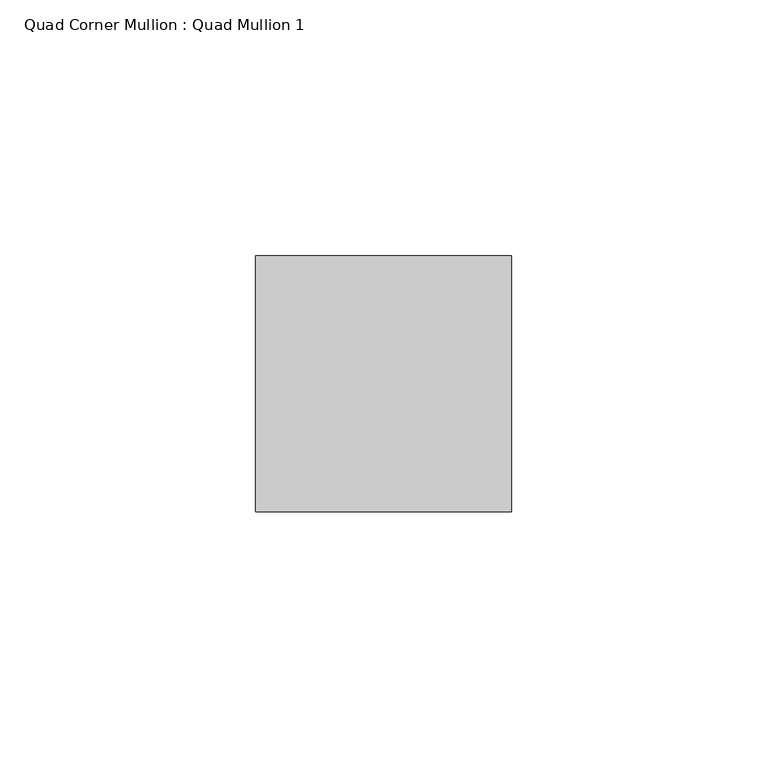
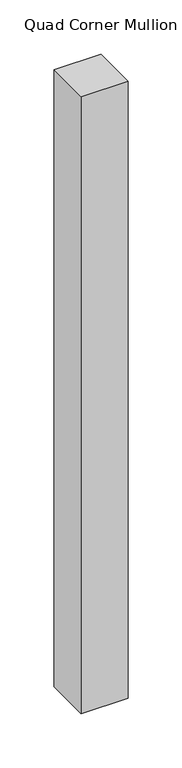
"""IFC4 building model written with IfcOpenShell, lengths in millimetres: member geometry, Quad Corner Mullion : Quad Mullion 1."""

from ifc_helpers import new_model, si_unit, frame, origin, place, context, project, spatial, polyline, outline, extrude, source, transform, mapped, element, save


def quad_corner_mullion_quad_mullion_1_269cb6b5(model_context):
    return source(origin(), model_context, "Body", "SweptSolid", [
        extrude(outline(polyline([(25.0, -25.0), (-25.0, -25.0), (-25.0, 25.0), (25.0, 25.0), (25.0, -25.0)])), frame((0.0, 0.0, -694.9258875), z_axis=(0.0, 0.0, 1.0), x_axis=(1.0, 0.0, 0.0)), (0.0, 0.0, 1.0), 694.9258875),
    ])


if __name__ == "__main__":
    model = new_model("IFC4")
    model_context = context("Model", 3, world=origin())
    ifc_project = project(units=[si_unit("LENGTHUNIT", "METRE", prefix="MILLI")], contexts=[model_context])
    site = spatial("IfcSite", under=ifc_project)
    building = spatial("IfcBuilding", under=site)
    placement = place(None, origin())
    quad_corner_mullion_quad_mullion_1_shape = quad_corner_mullion_quad_mullion_1_269cb6b5(model_context)
    element("IfcMember", 1, ObjectType="Quad Corner Mullion : Quad Mullion 1", at=placement, inside=building, context=model_context, shape_type="MappedRepresentation", body=[
        mapped(quad_corner_mullion_quad_mullion_1_shape, transform((0.0, 0.0, 0.0), x_axis=(1.0, 0.0, 0.0), y_axis=(0.0, 1.0, 0.0), z_axis=(0.0, 0.0, 1.0))),
    ])
    save(model, "model.ifc")
